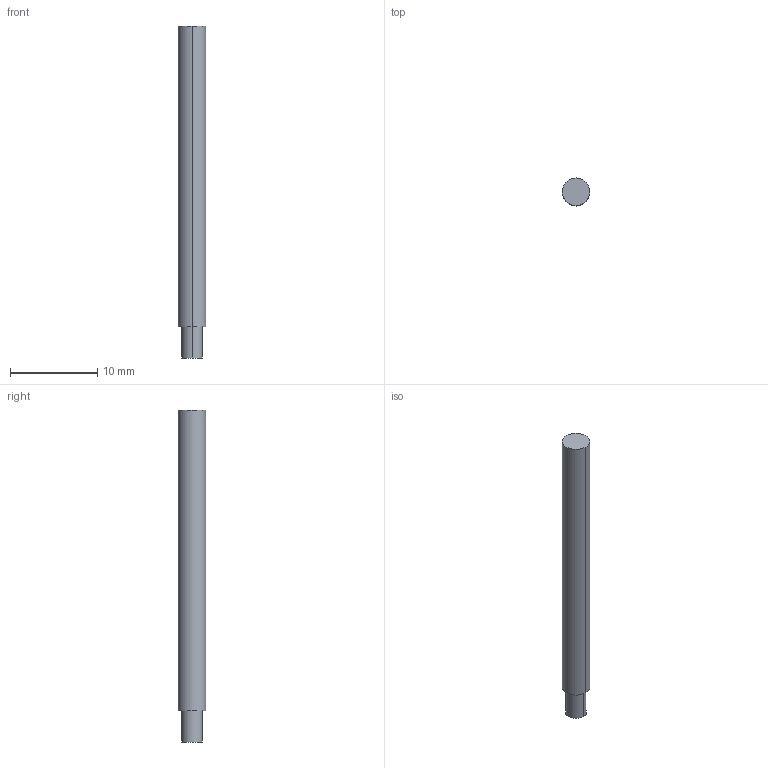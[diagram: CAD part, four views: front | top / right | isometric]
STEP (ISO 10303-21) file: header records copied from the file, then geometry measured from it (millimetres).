
FILE_DESCRIPTION((' '),'2;1');
FILE_NAME( '3MVS0938AH.stp', '2026-01-21T19:09:14', (' '), ('--- Datakit www.datakit.com---'), ' Datakit CrossCadWare V2025.4 Sep 19 2025', 'Mastercam 2027', ' ');
FILE_SCHEMA(('AUTOMOTIVE_DESIGN { 1 0 10303 214 1 1 1 1 }'));
Length unit declared in the file: inch
Products named in the file (1): 3MVS0938AH
Bounding box: 3.17 x 3.17 x 38.1 mm (x, y, z)
Volume: 289.3 mm3; surface area: 386.9 mm2
Topology: 1 solids, 1 shells, 7 faces, 12 edges, 8 vertices
Faces by surface type: cylinder 4, plane 3
Entity records: 243 total; most frequent: DIRECTION 44, CARTESIAN_POINT 32, ORIENTED_EDGE 24, AXIS2_PLACEMENT_3D 20, EDGE_CURVE 12, VERTEX_POINT 8, CIRCLE 8, EDGE_LOOP 8
